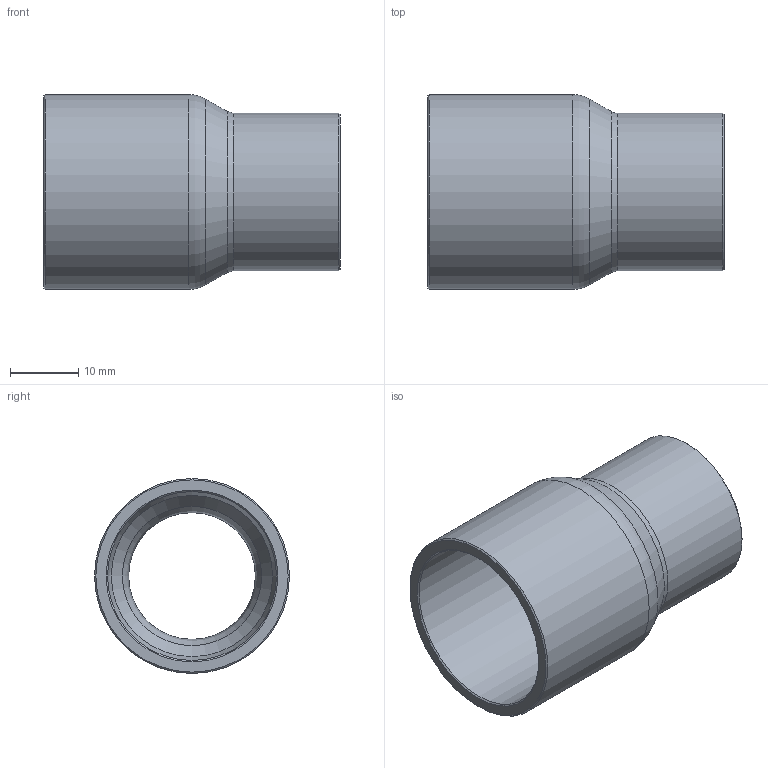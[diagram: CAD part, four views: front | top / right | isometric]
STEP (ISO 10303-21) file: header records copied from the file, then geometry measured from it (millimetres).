
FILE_DESCRIPTION((''),'2;1');
FILE_NAME('G:\SANHA-Ternat\Technik\Management\Bouwmaten + markeringen\z-maattekeningen 3D\29000s\2924311834_3d.stp','2017-08-03T16:15:50',('vdvijverd'),(''),'Autodesk Inventor 2009','Autodesk Inventor 2009','');
FILE_SCHEMA(('AUTOMOTIVE_DESIGN { 1 0 10303 214 1 1 1 1 }'));
Length unit declared in the file: millimetre
Products named in the file (1): 2924311834_3d
Bounding box: 43.4 x 28.57 x 28.57 mm (x, y, z)
Volume: 6528 mm3; surface area: 6974.3 mm2
Topology: 1 solids, 1 shells, 17 faces, 32 edges, 17 vertices
Faces by surface type: cone 6, cylinder 4, bspline 3, plane 2, torus 2
Full cylindrical faces by diameter (mm): 19.17 x1, 23.07 x1, 24.775 x1, 28.575 x1
Entity records: 494 total; most frequent: CARTESIAN_POINT 184, DIRECTION 64, ORIENTED_EDGE 34, EDGE_LOOP 34, AXIS2_PLACEMENT_3D 32, VERTEX_POINT 17, CIRCLE 17, EDGE_CURVE 17
